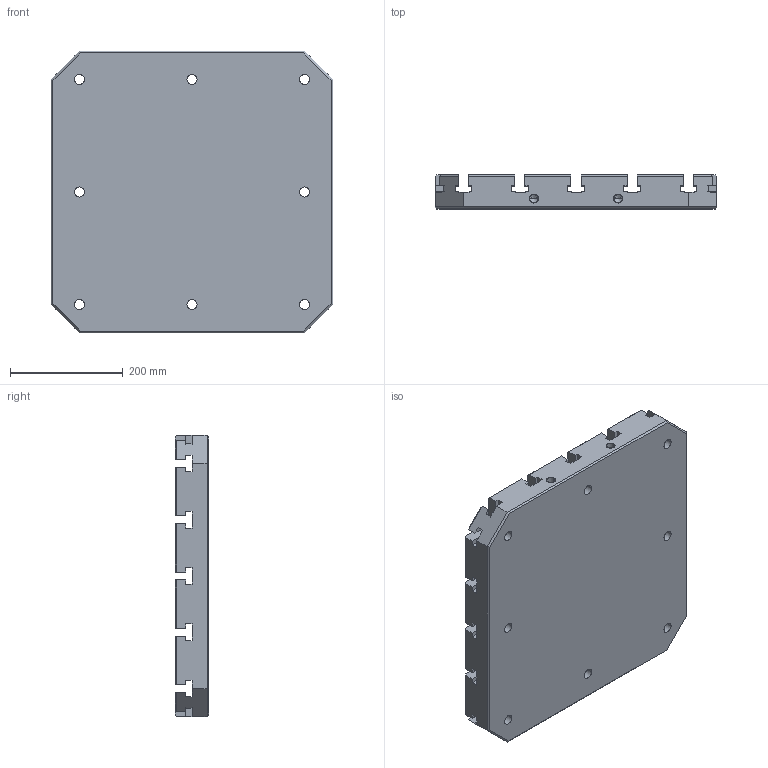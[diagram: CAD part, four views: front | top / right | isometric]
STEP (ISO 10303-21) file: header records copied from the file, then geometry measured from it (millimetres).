
FILE_DESCRIPTION((''),'2;1');
FILE_NAME('FG_WH_BASPL_SQT18NP002','2026-05-17T14:46:35',('Admin'),(''),'CREO PARAMETRIC BY PTC INC, 2025010','CREO PARAMETRIC BY PTC INC, 2025010','');
FILE_SCHEMA(('CONFIG_CONTROL_DESIGN'));
Length unit declared in the file: millimetre
Products named in the file (1): FG_WH_BASPL_SQT18NP002
Bounding box: 500 x 60 x 500 mm (x, y, z)
Volume: 11750694.7 mm3; surface area: 948818.3 mm2
Topology: 1 solids, 4 shells, 606 faces, 1678 edges, 1113 vertices
Faces by surface type: plane 524, cylinder 76, cone 6
Entity records: 19152 total; most frequent: CARTESIAN_POINT 3392, ORIENTED_EDGE 3332, DIRECTION 3092, EDGE_CURVE 1672, VECTOR 1466, LINE 1466, VERTEX_POINT 1113, AXIS2_PLACEMENT_3D 813
